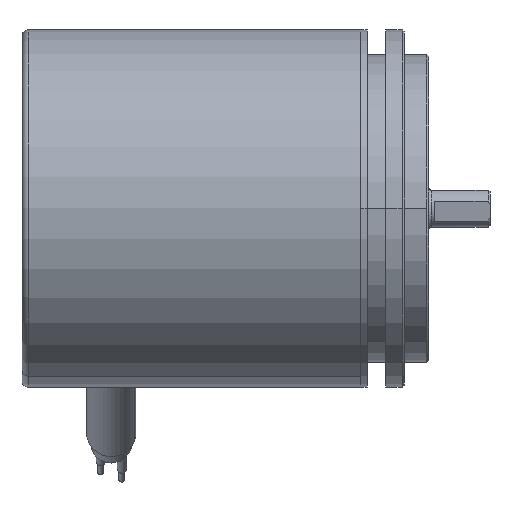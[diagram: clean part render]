
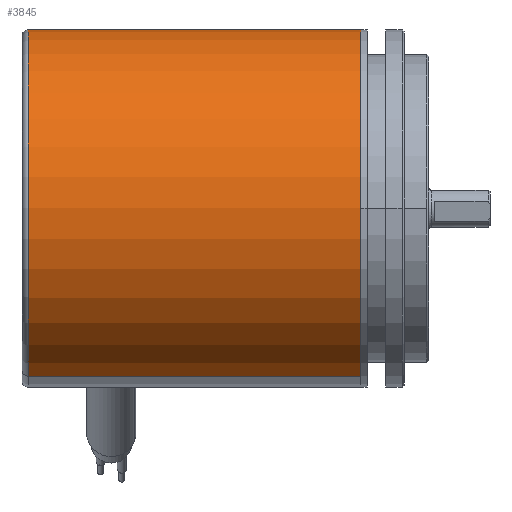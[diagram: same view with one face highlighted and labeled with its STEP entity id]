
A CAD part, top view. The second image highlights one B-rep face of the part: STEP entity #3845.
In plain terms, the highlighted cylindrical face has radius 29 mm (diameter 58 mm), a partial arc.
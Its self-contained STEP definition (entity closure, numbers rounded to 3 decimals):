
#3734 = VERTEX_POINT ( 'NONE', #6831 ) ;
#3736 = VERTEX_POINT ( 'NONE', #6825 ) ;
#3738 = EDGE_CURVE ( 'NONE', #3734, #3783, #6912, .T. ) ;
#3780 = VERTEX_POINT ( 'NONE', #7076 ) ;
#3783 = VERTEX_POINT ( 'NONE', #7070 ) ;
#3844 = EDGE_CURVE ( 'NONE', #3736, #3780, #7228, .T. ) ;
#3845 = ADVANCED_FACE ( 'NONE', ( #7199 ), #7198, .T. ) ;
#3846 = EDGE_LOOP ( 'NONE', ( #3847, #3848, #3850, #3851 ) ) ;
#3847 = ORIENTED_EDGE ( 'NONE', *, *, #3738, .F. ) ;
#3848 = ORIENTED_EDGE ( 'NONE', *, *, #3849, .F. ) ;
#3849 = EDGE_CURVE ( 'NONE', #3736, #3734, #7196, .T. ) ;
#3850 = ORIENTED_EDGE ( 'NONE', *, *, #3844, .T. ) ;
#3851 = ORIENTED_EDGE ( 'NONE', *, *, #3852, .T. ) ;
#3852 = EDGE_CURVE ( 'NONE', #3780, #3783, #7188, .T. ) ;
#6825 = CARTESIAN_POINT ( 'NONE',  ( 15., 27.245, -9.935 ) ) ;
#6831 = CARTESIAN_POINT ( 'NONE',  ( 15., -27.245, 9.935 ) ) ;
#6909 = DIRECTION ( 'NONE',  ( -1., 0., 0. ) ) ;
#6910 = VECTOR ( 'NONE', #6909, 1000. ) ;
#6911 = CARTESIAN_POINT ( 'NONE',  ( 15., -27.245, 9.935 ) ) ;
#6912 = LINE ( 'NONE', #6911, #6910 ) ;
#7070 = CARTESIAN_POINT ( 'NONE',  ( -39., -27.245, 9.935 ) ) ;
#7076 = CARTESIAN_POINT ( 'NONE',  ( -39., 27.245, -9.935 ) ) ;
#7184 = DIRECTION ( 'NONE',  ( 0., -0.939, 0.343 ) ) ;
#7185 = DIRECTION ( 'NONE',  ( 1., 0., 0. ) ) ;
#7186 = CARTESIAN_POINT ( 'NONE',  ( -39., 0., 0. ) ) ;
#7187 = AXIS2_PLACEMENT_3D ( 'NONE', #7186, #7185, #7184 ) ;
#7188 = CIRCLE ( 'NONE', #7187, 29. ) ;
#7189 = DIRECTION ( 'NONE',  ( 0., -0.939, 0.343 ) ) ;
#7190 = DIRECTION ( 'NONE',  ( 1., 0., 0. ) ) ;
#7191 = CARTESIAN_POINT ( 'NONE',  ( 15., 0., 0. ) ) ;
#7192 = AXIS2_PLACEMENT_3D ( 'NONE', #7191, #7190, #7189 ) ;
#7193 = DIRECTION ( 'NONE',  ( 0., 0.939, -0.343 ) ) ;
#7194 = DIRECTION ( 'NONE',  ( -1., 0., 0. ) ) ;
#7195 = AXIS2_PLACEMENT_3D ( 'NONE', #7197, #7194, #7193 ) ;
#7196 = CIRCLE ( 'NONE', #7192, 29. ) ;
#7197 = CARTESIAN_POINT ( 'NONE',  ( 15., 0., 0. ) ) ;
#7198 = CYLINDRICAL_SURFACE ( 'NONE', #7195, 29. ) ;
#7199 = FACE_OUTER_BOUND ( 'NONE', #3846, .T. ) ;
#7225 = DIRECTION ( 'NONE',  ( -1., 0., 0. ) ) ;
#7226 = VECTOR ( 'NONE', #7225, 1000. ) ;
#7227 = CARTESIAN_POINT ( 'NONE',  ( 15., 27.245, -9.935 ) ) ;
#7228 = LINE ( 'NONE', #7227, #7226 ) ;
